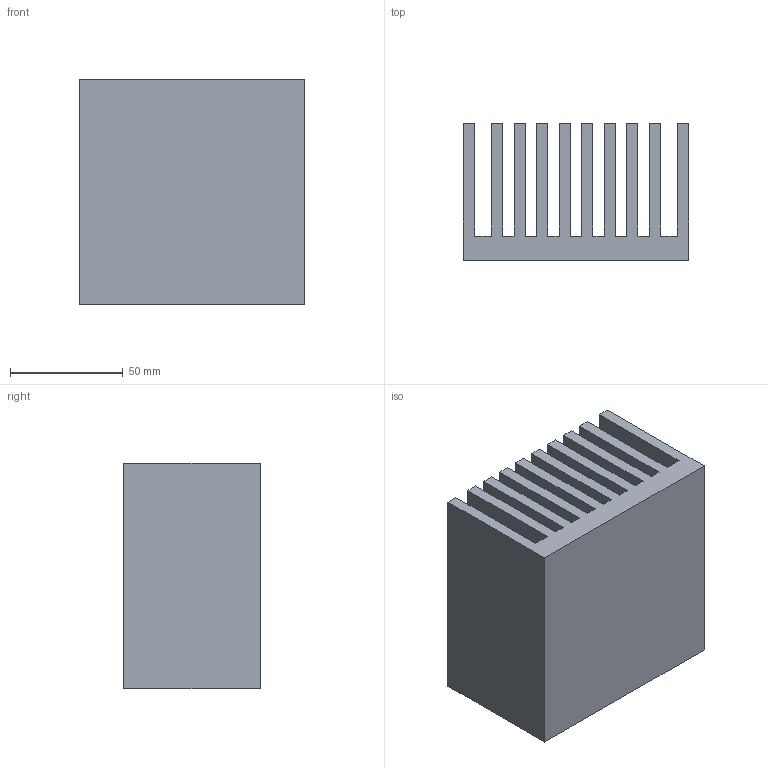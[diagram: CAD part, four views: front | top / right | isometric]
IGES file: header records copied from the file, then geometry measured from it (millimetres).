
Start section: DesignModeler IGES Output Version 5.3
Global section: file name: NoName; native system:  By UGS Corp.; preprocessor: XPlus GENERIC/IGES 3.0; author: cadcim; organization:  ; date: 20120504.142247; units: metre
Bounding box: 100 x 60.73 x 100 mm (x, y, z)
Volume: 357344.3 mm3; surface area: 129293.8 mm2
Topology: 1 solids, 1 shells, 42 faces, 120 edges, 80 vertices
Faces by surface type: plane 42
